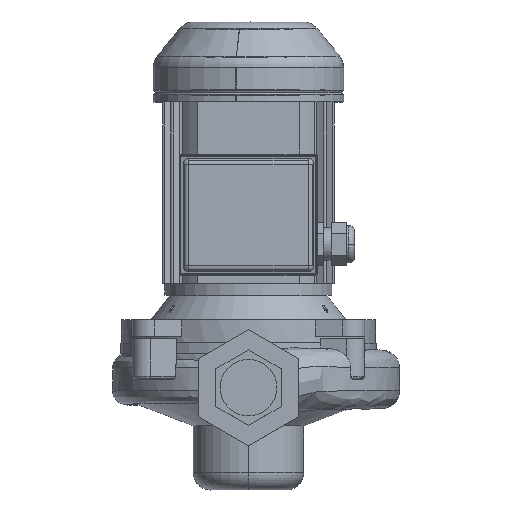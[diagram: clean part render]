
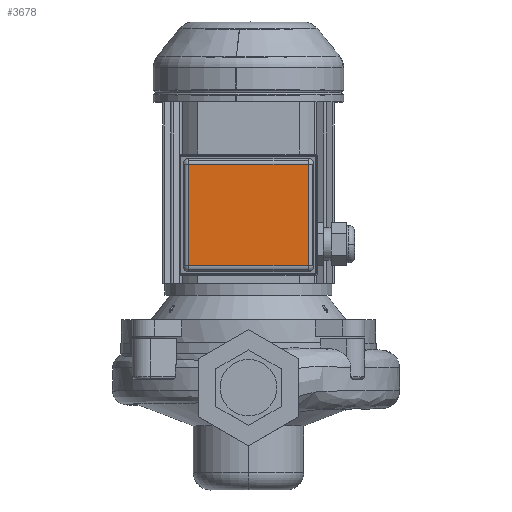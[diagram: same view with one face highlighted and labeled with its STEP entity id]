
A CAD part, top view. The second image highlights one B-rep face of the part: STEP entity #3678.
In plain terms, the highlighted planar face has unit normal (0, 0, 1).
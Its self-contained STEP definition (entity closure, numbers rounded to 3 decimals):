
#3678=ADVANCED_FACE('',(#7554),#7555,.T.);
#3932=EDGE_CURVE('',#7959,#7963,#7964,.T.);
#3938=EDGE_CURVE('',#7969,#7959,#7973,.T.);
#3944=EDGE_CURVE('',#7978,#7969,#7982,.T.);
#3974=EDGE_CURVE('',#7963,#7978,#8027,.T.);
#7554=FACE_OUTER_BOUND('',#14463,.T.);
#7555=PLANE('',#14464);
#7959=VERTEX_POINT('',#14940);
#7963=VERTEX_POINT('',#14945);
#7964=LINE('',#14946,#14947);
#7969=VERTEX_POINT('',#14954);
#7973=LINE('',#14959,#14960);
#7978=VERTEX_POINT('',#14967);
#7982=LINE('',#14972,#14973);
#8027=LINE('',#15037,#15038);
#14463=EDGE_LOOP('',(#22123,#22124,#22125,#22126));
#14464=AXIS2_PLACEMENT_3D('',#22127,#22128,#22129);
#14940=CARTESIAN_POINT('',(-73.77,-79.02,390.0));
#14945=CARTESIAN_POINT('',(-73.77,-9.02,390.0));
#14946=CARTESIAN_POINT('',(-73.77,-79.02,390.0));
#14947=VECTOR('',#22870,1.0);
#14954=CARTESIAN_POINT('',(8.23,-79.02,390.0));
#14959=CARTESIAN_POINT('',(8.23,-79.02,390.0));
#14960=VECTOR('',#22877,1.0);
#14967=CARTESIAN_POINT('',(8.23,-9.02,390.0));
#14972=CARTESIAN_POINT('',(8.23,-9.02,390.0));
#14973=VECTOR('',#22884,1.0);
#15037=CARTESIAN_POINT('',(-73.77,-9.02,390.0));
#15038=VECTOR('',#22919,1.0);
#22123=ORIENTED_EDGE('',*,*,#3944,.F.);
#22124=ORIENTED_EDGE('',*,*,#3974,.F.);
#22125=ORIENTED_EDGE('',*,*,#3932,.F.);
#22126=ORIENTED_EDGE('',*,*,#3938,.F.);
#22127=CARTESIAN_POINT('',(-77.77,-5.02,390.0));
#22128=DIRECTION('',(0.0,0.0,1.0));
#22129=DIRECTION('',(1.0,0.0,0.0));
#22870=DIRECTION('',(0.0,1.0,0.0));
#22877=DIRECTION('',(-1.0,0.0,0.0));
#22884=DIRECTION('',(0.0,-1.0,0.0));
#22919=DIRECTION('',(1.0,0.0,0.0));
